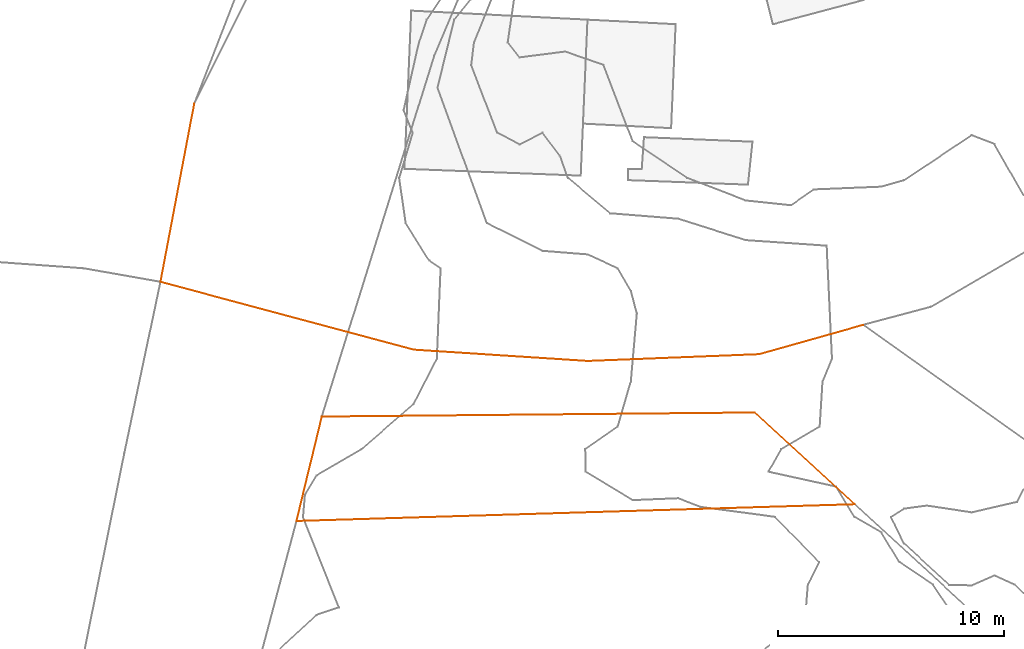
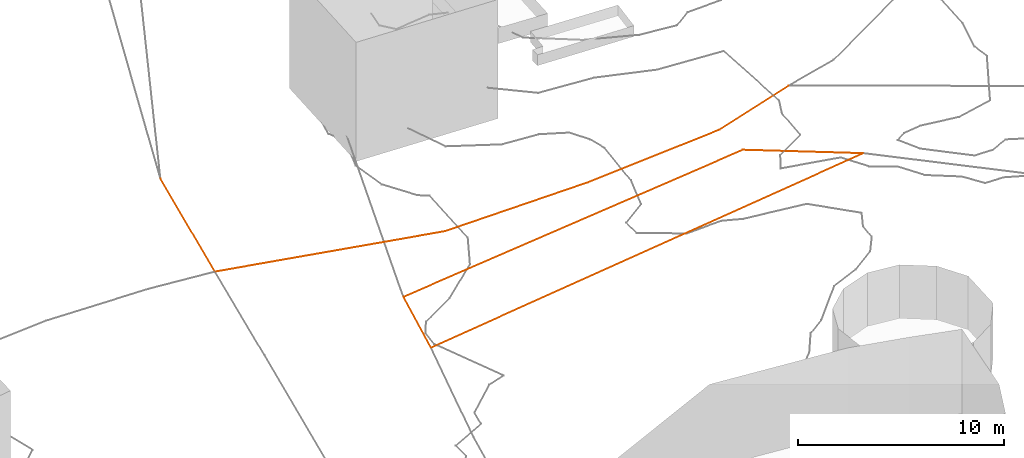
# Not in any storey, part 213 of 419: 3 proxies.
"""IFC2X3 model written with IfcOpenShell, lengths in metres."""

from ifc_helpers import new_model, entity, si_unit, frame, origin_with_axes, place, context, subcontext, project, element, save


model = new_model("IFC2X3")

# Units and contexts
model_context = context("Model", 3, precision=1e-05, world=origin_with_axes())
body_context = subcontext(model_context, "Body", "Model", "MODEL_VIEW")
ifc_project = project(units=[si_unit("AREAUNIT", "SQUARE_METRE"), si_unit("LENGTHUNIT", "METRE")], contexts=[model_context])

# Proxies
proxy_1_placement = place(None, frame((706.1920204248, 300.2976909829, 77.2), z_axis=(0.0, 0.0, 1.0), x_axis=(1.0, 0.0, 0.0)))
element("IfcBuildingElementProxy", 1, at=proxy_1_placement, Name="Route 5", ObjectType="NOTDEFINED", context=body_context, shape_type="GeometricCurveSet", body=[
    entity("IfcGeometricCurveSet", [entity("IfcPolyline", [entity("IfcCartesianPoint", [0.0, 0.0, 0.0]), entity("IfcCartesianPoint", [11.2000000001, -3.0, 0.3]), entity("IfcCartesianPoint", [18.9, -3.5, 0.8]), entity("IfcCartesianPoint", [26.5, -3.2000000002, 1.1]), entity("IfcCartesianPoint", [31.1, -1.9000000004, 1.3])])]),
])
proxy_2_placement = place(None, frame((706.1920204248, 300.2976909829, 77.2), z_axis=(0.0, 0.0, 1.0), x_axis=(1.0, 0.0, 0.0)))
element("IfcBuildingElementProxy", 2, at=proxy_2_placement, Name="Route 270", ObjectType="NOTDEFINED", context=body_context, shape_type="GeometricCurveSet", body=[
    entity("IfcGeometricCurveSet", [entity("IfcPolyline", [entity("IfcCartesianPoint", [0.0, 0.0, 0.0]), entity("IfcCartesianPoint", [1.5, 7.8999999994, 0.2])])]),
])
proxy_3_placement = place(None, frame((712.2120204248, 289.7176909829, 76.9965032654), z_axis=(0.0, 0.0, 1.0), x_axis=(1.0, 0.0, 0.0)))
element("IfcBuildingElementProxy", 3, at=proxy_3_placement, Name="Cadastre 112", ObjectType="NOTDEFINED", context=body_context, shape_type="GeometricCurveSet", body=[
    entity("IfcGeometricCurveSet", [entity("IfcPolyline", [entity("IfcCartesianPoint", [1.12, 4.6200000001, -0.1790809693]), entity("IfcCartesianPoint", [20.28, 4.7999999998, 1.732134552]), entity("IfcCartesianPoint", [24.7000000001, 0.7400000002, 2.443113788]), entity("IfcCartesianPoint", [0.0, 0.0, 0.0]), entity("IfcCartesianPoint", [1.12, 4.6200000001, -0.1790809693])])]),
])

save(model, "model.ifc")
